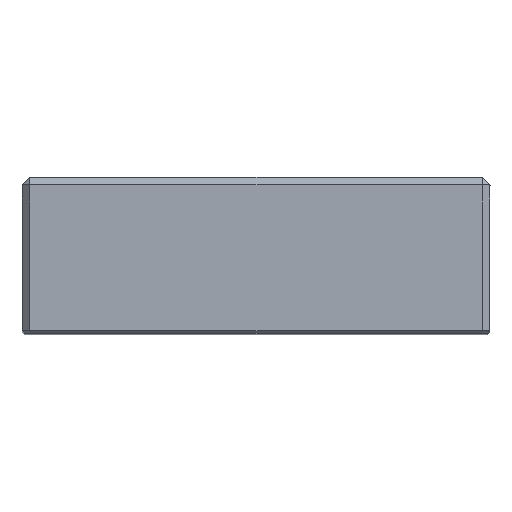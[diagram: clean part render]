
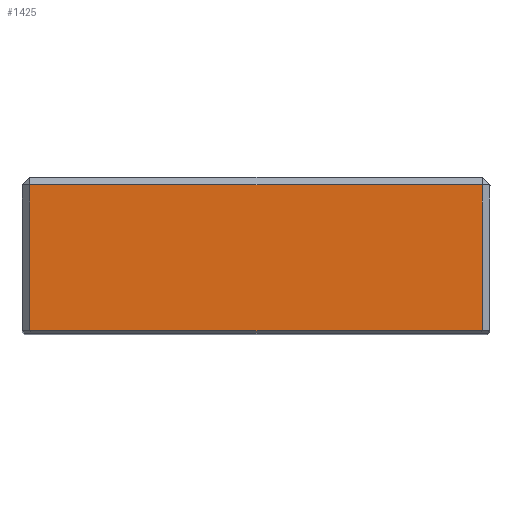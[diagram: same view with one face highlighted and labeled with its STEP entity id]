
A CAD part, top view. The second image highlights one B-rep face of the part: STEP entity #1425.
In plain terms, the highlighted planar face has unit normal (0, 0, 1).
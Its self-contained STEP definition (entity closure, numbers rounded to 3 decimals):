
#1398=AXIS2_PLACEMENT_3D('Plane Axis2P3D',#1395,#1396,#1397) ;
#602=CARTESIAN_POINT('Vertex',(-87.,-3.,0.)) ;
#605=CARTESIAN_POINT('Line Origine',(0.,-3.,0.)) ;
#609=CARTESIAN_POINT('Vertex',(87.,-3.,0.)) ;
#1395=CARTESIAN_POINT('Axis2P3D Location',(90.,0.,0.)) ;
#1400=CARTESIAN_POINT('Line Origine',(0.,-59.,0.)) ;
#1404=CARTESIAN_POINT('Vertex',(87.,-59.,0.)) ;
#1406=CARTESIAN_POINT('Vertex',(-87.,-59.,0.)) ;
#1409=CARTESIAN_POINT('Line Origine',(87.,-31.,0.)) ;
#1414=CARTESIAN_POINT('Line Origine',(-87.,-31.,0.)) ;
#606=DIRECTION('Vector Direction',(1.,0.,0.)) ;
#1396=DIRECTION('Axis2P3D Direction',(0.,0.,1.)) ;
#1397=DIRECTION('Axis2P3D XDirection',(-1.,0.,0.)) ;
#1401=DIRECTION('Vector Direction',(-1.,0.,0.)) ;
#1410=DIRECTION('Vector Direction',(0.,-1.,0.)) ;
#1415=DIRECTION('Vector Direction',(0.,1.,0.)) ;
#607=VECTOR('Line Direction',#606,1.) ;
#1402=VECTOR('Line Direction',#1401,1.) ;
#1411=VECTOR('Line Direction',#1410,1.) ;
#1416=VECTOR('Line Direction',#1415,1.) ;
#1420=ORIENTED_EDGE('',*,*,#1408,.F.) ;
#1421=ORIENTED_EDGE('',*,*,#1413,.F.) ;
#1422=ORIENTED_EDGE('',*,*,#611,.F.) ;
#1423=ORIENTED_EDGE('',*,*,#1418,.F.) ;
#1425=ADVANCED_FACE('MANIFOLD_SOLID_BREP #3306',(#1424),#1399,.T.) ;
#611=EDGE_CURVE('',#603,#610,#608,.T.) ;
#1408=EDGE_CURVE('',#1405,#1407,#1403,.T.) ;
#1413=EDGE_CURVE('',#610,#1405,#1412,.T.) ;
#1418=EDGE_CURVE('',#1407,#603,#1417,.T.) ;
#1419=EDGE_LOOP('',(#1420,#1421,#1422,#1423)) ;
#1424=FACE_OUTER_BOUND('',#1419,.T.) ;
#608=LINE('Line',#605,#607) ;
#1403=LINE('Line',#1400,#1402) ;
#1412=LINE('Line',#1409,#1411) ;
#1417=LINE('Line',#1414,#1416) ;
#1399=PLANE('Plane',#1398) ;
#603=VERTEX_POINT('',#602) ;
#610=VERTEX_POINT('',#609) ;
#1405=VERTEX_POINT('',#1404) ;
#1407=VERTEX_POINT('',#1406) ;
